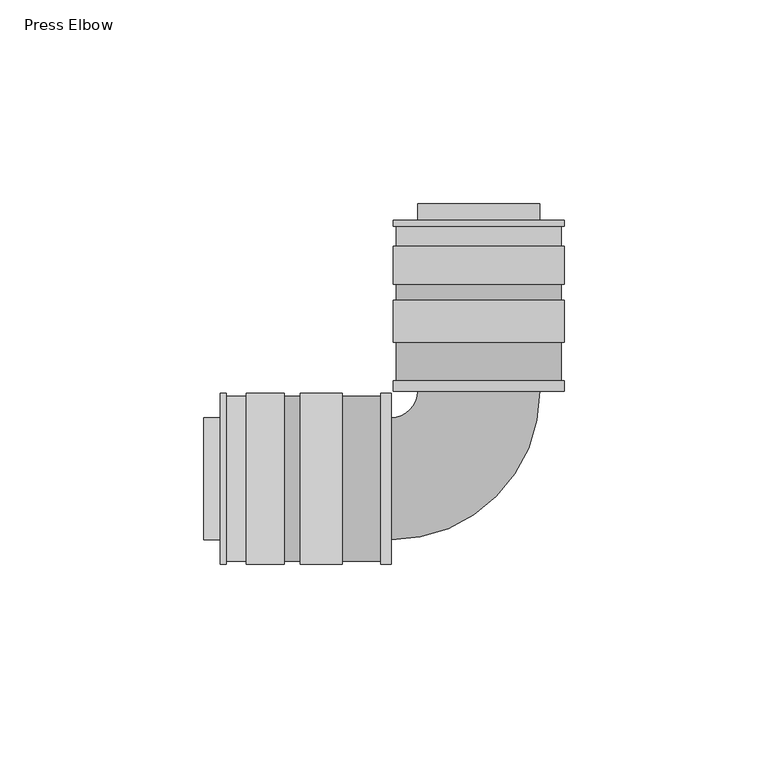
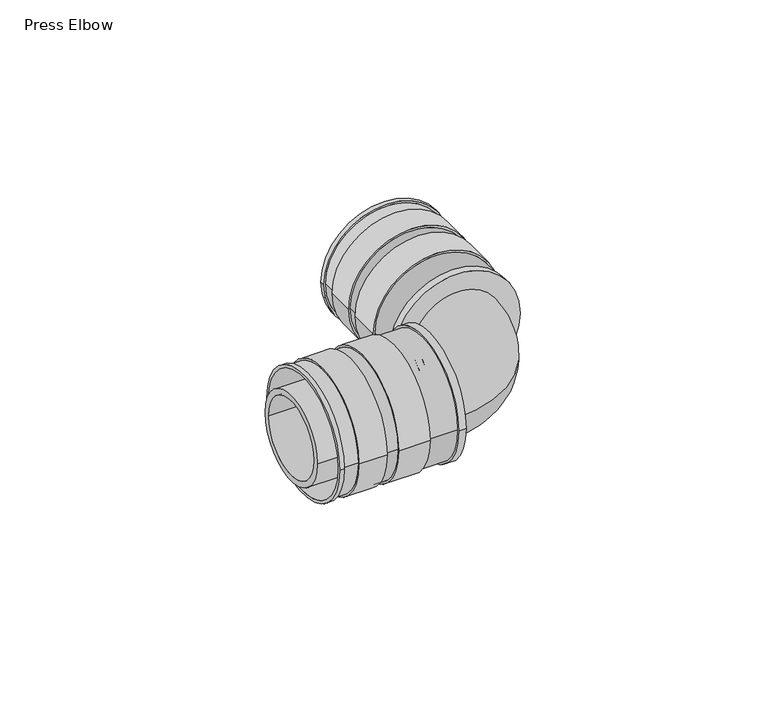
"""IFC4 building model written with IfcOpenShell, lengths in millimetres: pipe fitting geometry, Press Elbow : Superpipe Press Elbow."""

import ifcopenshell
import ifcopenshell.guid

model = None  # the IFC model being written
_history = None  # IfcOwnerHistory: only IFC2X3 demands one
_inside = {}  # id of a spatial element -> (the spatial element, [elements in it])
_under = {}  # id of a project, library or spatial element -> (it, [spatial elements below it])
_declared = {}  # id of a project -> (the project, [libraries it declares])
_typed = {}  # id of a type object -> (the type object, [elements of that type])
_made_of = {}  # id of a material, layer set ... -> (it, [elements and type objects made of it])


def new_model(schema):
    """Start an empty IFC model of exactly this schema.

    Asked for "IFC4X3", IfcOpenShell would pick the latest addendum, in which some entities
    have other attributes; the version numbers below select the first issue.
    IFC2X3 requires an IfcOwnerHistory on every rooted entity: one is made here for all.
    """
    global model, _history
    if schema == "IFC4X3":
        model = ifcopenshell.file(schema_version=(4, 3, 0, 0))
    else:
        model = ifcopenshell.file(schema=schema)
    _inside.clear()
    _under.clear()
    _declared.clear()
    _typed.clear()
    _made_of.clear()
    _history = None
    if model.schema == "IFC2X3":
        org = make("IfcOrganization", Name="unknown")
        user = make(
            "IfcPersonAndOrganization",
            ThePerson=make("IfcPerson", FamilyName="unknown"),
            TheOrganization=org,
        )
        app = make(
            "IfcApplication",
            ApplicationDeveloper=org,
            Version="unknown",
            ApplicationFullName="unknown",
            ApplicationIdentifier="unknown",
        )
        _history = make(
            "IfcOwnerHistory",
            OwningUser=user,
            OwningApplication=app,
            ChangeAction="ADDED",
            CreationDate=0,
        )
    return model


def make(cls, **values):
    """One entity of the class cls with the attributes given. An attribute that is None is left unset."""
    return model.create_entity(
        cls, **{name: value for name, value in values.items() if value is not None}
    )


def rooted(cls, **values):
    """An entity with a GlobalId (a new one), such as an element, a storey or a relation."""
    return make(cls, GlobalId=ifcopenshell.guid.new(), OwnerHistory=_history, **values)


def si_unit(unit_type, name, prefix=None):
    """IfcSIUnit, for example si_unit("LENGTHUNIT", "METRE", prefix="MILLI")."""
    return make("IfcSIUnit", UnitType=unit_type, Prefix=prefix, Name=name)


def assignment(units):
    """IfcUnitAssignment: the units of a project."""
    return None if units is None else make("IfcUnitAssignment", Units=units)


def point(xyz):
    """IfcCartesianPoint."""
    return None if xyz is None else make("IfcCartesianPoint", Coordinates=xyz)


def direction(xyz):
    """IfcDirection."""
    return None if xyz is None else make("IfcDirection", DirectionRatios=xyz)


def frame(location, z_axis=None, x_axis=None):
    """IfcAxis2Placement3D, a coordinate frame: its origin and axes. An axis left out is left unset."""
    return make(
        "IfcAxis2Placement3D",
        Location=point(location),
        Axis=direction(z_axis),
        RefDirection=direction(x_axis),
    )


def frame_2d(location, x_axis=None):
    """IfcAxis2Placement2D, a coordinate frame in the plane: its origin and x axis."""
    return make(
        "IfcAxis2Placement2D", Location=point(location), RefDirection=direction(x_axis)
    )


def origin():
    """The frame at (0, 0, 0) with its axes left unset."""
    return frame((0.0, 0.0, 0.0))


def origin_2d():
    """The frame at (0, 0) in the plane with its x axis left unset."""
    return frame_2d((0.0, 0.0))


def place(relative_to, where):
    """IfcLocalPlacement: puts the frame where relative to a parent placement (None: the world)."""
    return make(
        "IfcLocalPlacement", PlacementRelTo=relative_to, RelativePlacement=where
    )


def context(
    kind, dimensions, precision=None, world=None, true_north=None, identifier=None
):
    """IfcGeometricRepresentationContext, for example the 3D "Model" context."""
    return make(
        "IfcGeometricRepresentationContext",
        ContextIdentifier=identifier,
        ContextType=kind,
        CoordinateSpaceDimension=dimensions,
        Precision=precision,
        WorldCoordinateSystem=world,
        TrueNorth=true_north,
    )


def project(units=None, contexts=None):
    """IfcProject with its units and contexts."""
    return rooted(
        "IfcProject",
        Name="project",
        RepresentationContexts=contexts,
        UnitsInContext=assignment(units),
    )


def spatial(cls, under=None, at=None, **own):
    """A site, building, storey or space (cls), placed at a placement, below another one or the project."""
    s = rooted(cls, ObjectPlacement=at, **own)
    if under is not None:
        _under.setdefault(under.id(), (under, []))[1].append(s)
    return s


def polyline(points):
    """IfcPolyline through the points."""
    return make("IfcPolyline", Points=[point(p) for p in points])


def circle_curve(where, radius):
    """IfcCircle in the frame where."""
    return make("IfcCircle", Position=where, Radius=radius)


def ellipse_curve(where, semi_axis1, semi_axis2):
    """IfcEllipse in the frame where."""
    return make(
        "IfcEllipse", Position=where, SemiAxis1=semi_axis1, SemiAxis2=semi_axis2
    )


def trimmed(basis, trim1, trim2, sense, master):
    """IfcTrimmedCurve: the piece of a basis curve between two trims."""
    return make(
        "IfcTrimmedCurve",
        BasisCurve=basis,
        Trim1=trim1,
        Trim2=trim2,
        SenseAgreement=sense,
        MasterRepresentation=master,
    )


def segment(curve, same_sense, transition):
    """IfcCompositeCurveSegment."""
    return make(
        "IfcCompositeCurveSegment",
        Transition=transition,
        SameSense=same_sense,
        ParentCurve=curve,
    )


def composite_curve(segments, self_intersect=None):
    """IfcCompositeCurve: segments joined end to end."""
    return make("IfcCompositeCurve", Segments=segments, SelfIntersect=self_intersect)


def outline(outer, holes=None, kind="AREA"):
    """IfcArbitraryClosedProfileDef: a profile drawn as a closed curve; with holes, ...WithVoids."""
    if holes is None:
        return make("IfcArbitraryClosedProfileDef", ProfileType=kind, OuterCurve=outer)
    return make(
        "IfcArbitraryProfileDefWithVoids",
        ProfileType=kind,
        OuterCurve=outer,
        InnerCurves=holes,
    )


def extrude(swept, where, along, depth):
    """IfcExtrudedAreaSolid: the profile swept, set in the frame where, extruded along a direction by depth."""
    return make(
        "IfcExtrudedAreaSolid",
        SweptArea=swept,
        Position=where,
        ExtrudedDirection=direction(along),
        Depth=depth,
    )


def shape(context_of_items, identifier, shape_type, items):
    """IfcShapeRepresentation: the items that make up one representation, for example the "Body"."""
    return make(
        "IfcShapeRepresentation",
        ContextOfItems=context_of_items,
        RepresentationIdentifier=identifier,
        RepresentationType=shape_type,
        Items=items,
    )


def source(mapping_origin, context_of_items, identifier, shape_type, items):
    """IfcRepresentationMap: a shape defined once, which mapped items show again and again."""
    return make(
        "IfcRepresentationMap",
        MappingOrigin=mapping_origin,
        MappedRepresentation=shape(context_of_items, identifier, shape_type, items),
    )


def transform(
    local_origin,
    x_axis=None,
    y_axis=None,
    z_axis=None,
    scale=None,
    scale2=None,
    scale3=None,
    uniform=True,
):
    """IfcCartesianTransformationOperator3D, or its non-uniform kind. x_axis, y_axis, z_axis: its Axis1, 2, 3."""
    if uniform:
        return make(
            "IfcCartesianTransformationOperator3D",
            Axis1=direction(x_axis),
            Axis2=direction(y_axis),
            LocalOrigin=point(local_origin),
            Scale=scale,
            Axis3=direction(z_axis),
        )
    return make(
        "IfcCartesianTransformationOperator3DnonUniform",
        Axis1=direction(x_axis),
        Axis2=direction(y_axis),
        LocalOrigin=point(local_origin),
        Scale=scale,
        Axis3=direction(z_axis),
        Scale2=scale2,
        Scale3=scale3,
    )


def mapped(mapping_source, mapping_target):
    """IfcMappedItem: shows the shape of a source again, moved by a transform."""
    return make(
        "IfcMappedItem", MappingSource=mapping_source, MappingTarget=mapping_target
    )


def made_of(thing, what):
    """Note that an element or type object is made of a material, layer set ...; save() writes the relation."""
    if what is not None:
        _made_of.setdefault(what.id(), (what, []))[1].append(thing)
    return thing


def element(
    cls,
    number,
    at=None,
    inside=None,
    cuts=None,
    type_object=None,
    material=None,
    context=None,
    identifier="Body",
    shape_type=None,
    held_by="IfcProductDefinitionShape",
    body=None,
    shapes=None,
    **own,
):
    """One element of the class cls, such as IfcWall. Its Tag is "e" and its number.

    at: its placement. inside: the storey or other place that contains it. cuts: it is an
    opening in that element (IfcRelVoidsElement). A single representation is given by context,
    identifier, shape_type and body (its items); several are given by shapes. held_by: the class
    of the entity that holds the representations. save() writes the other relations.
    """
    e = rooted(cls, Tag="e%d" % number, ObjectPlacement=at, **own)
    if body is not None:
        shapes = [shape(context, identifier, shape_type, body)]
    if shapes is not None:
        e.Representation = make(held_by, Representations=shapes)
    if inside is not None:
        _inside.setdefault(inside.id(), (inside, []))[1].append(e)
    if cuts is not None:
        rooted(
            "IfcRelVoidsElement", RelatingBuildingElement=cuts, RelatedOpeningElement=e
        )
    if type_object is not None:
        _typed.setdefault(type_object.id(), (type_object, []))[1].append(e)
    return made_of(e, material)


def aggregate(whole, parts):
    """IfcRelAggregates: a whole, such as a stair, and the parts it consists of."""
    return rooted("IfcRelAggregates", RelatingObject=whole, RelatedObjects=parts)


def save(model, path):
    """Write the relations noted so far, then the file.

    IfcRelAggregates (storeys below a building ...), IfcRelContainedInSpatialStructure (elements
    in a storey), IfcRelDefinesByType, IfcRelAssociatesMaterial and IfcRelDeclares: one each for
    every whole, place, type object, material and project.
    """
    for whole, parts in _under.values():
        aggregate(whole, parts)
    for where, things in _inside.values():
        rooted(
            "IfcRelContainedInSpatialStructure",
            RelatedElements=things,
            RelatingStructure=where,
        )
    for kind, things in _typed.values():
        rooted("IfcRelDefinesByType", RelatedObjects=things, RelatingType=kind)
    for what, things in _made_of.values():
        rooted("IfcRelAssociatesMaterial", RelatedObjects=things, RelatingMaterial=what)
    for by, libraries in _declared.values():
        rooted("IfcRelDeclares", RelatingContext=by, RelatedDefinitions=libraries)
    model.write(path)


def plane_surface(at):
    """IfcPlane: the flat surface through the origin of the frame at, square to its z axis."""
    return make("IfcPlane", Position=at)


def cylinder_surface(at, radius):
    """IfcCylindricalSurface: all points at the distance radius from the z axis of the frame at."""
    return make("IfcCylindricalSurface", Position=at, Radius=radius)


def revolved_surface(curve, axis_point, axis_direction):
    """IfcSurfaceOfRevolution: the curve turned about the line through axis_point along axis_direction."""
    return make(
        "IfcSurfaceOfRevolution",
        SweptCurve=make("IfcArbitraryOpenProfileDef", ProfileType="CURVE", Curve=curve),
        AxisPosition=make("IfcAxis1Placement", Location=point(axis_point), Axis=direction(axis_direction)),
    )


def advanced_brep(points, edges, surfaces, faces):
    """IfcAdvancedBrep: a solid bounded by faces that lie on surfaces and meet in shared edges.

    An edge is (start, end): straight between two places in points (the first is 0);
    or (start, end, curve); or (start, end, curve, False) where it runs against its curve.
    A face is (place in surfaces, loops), or (place, loops, False) where it looks against
    its surface's normal. A loop lists edges by number (the first is 1), with a minus sign
    where the edge is run from its end to its start. The first loop is the outer one.
    """
    corners = [point(p) for p in points]
    vertices = [make("IfcVertexPoint", VertexGeometry=c) for c in corners]
    made = []
    for start, end, *more in edges:
        made.append(
            make(
                "IfcEdgeCurve",
                EdgeStart=vertices[start],
                EdgeEnd=vertices[end],
                EdgeGeometry=more[0] if more else make("IfcPolyline", Points=[corners[start], corners[end]]),
                SameSense=more[1] if len(more) > 1 else True,
            )
        )
    hull = []
    for where, loops, *sense in faces:
        bounds = []
        for j, loop in enumerate(loops):
            ring = [make("IfcOrientedEdge", EdgeElement=made[abs(k) - 1], Orientation=k > 0) for k in loop]
            bounds.append(
                make(
                    "IfcFaceOuterBound" if j == 0 else "IfcFaceBound",
                    Bound=make("IfcEdgeLoop", EdgeList=ring),
                    Orientation=True,
                )
            )
        hull.append(make("IfcAdvancedFace", Bounds=bounds, FaceSurface=surfaces[where], SameSense=sense[0] if sense else True))
    return make("IfcAdvancedBrep", Outer=make("IfcClosedShell", CfsFaces=hull))


def press_elbow_edc2ccf9(model_context):
    return source(origin(), model_context, "Body", "SolidModel", [
        advanced_brep(
        [(-20.3, 24.0, 0.0), (20.3, 24.0, 0.0), (20.0, 24.0, 0.0), (-20.0, 24.0, 0.0), (21.0, 63.5, 0.0), (-21.0, 63.5, 0.0), (20.0, 63.5, 0.0), (-20.0, 63.5, 0.0), (21.0, 62.0, 0.0), (-21.0, 62.0, 0.0), (21.0, 33.5, 0.0), (-21.0, 33.5, 0.0), (-21.0, 43.75, 0.0), (21.0, 43.75, 0.0), (21.0, 47.75, 0.0), (-21.0, 47.75, 0.0), (-21.0, 57.0, 0.0), (21.0, 57.0, 0.0), (20.3, 33.5, 0.0), (-20.3, 33.5, 0.0), (20.3, 43.75, 0.0), (-20.3, 43.75, 0.0), (20.3, 47.75, 0.0), (-20.3, 47.75, 0.0), (-20.3, 62.0, 0.0), (20.3, 62.0, 0.0), (-20.3, 57.0, 0.0), (20.3, 57.0, 0.0)],
        [
            (0, 1, circle_curve(frame((0.0, 24.0, 0.0), z_axis=(0.0, -1.0, 0.0), x_axis=(-1.0, 0.0, 0.0)), 20.3)),
            (1, 0, circle_curve(frame((0.0, 24.0, 0.0), z_axis=(0.0, -1.0, 0.0), x_axis=(-1.0, 0.0, 0.0)), 20.3)),
            (2, 3, circle_curve(frame((0.0, 24.0, 0.0), z_axis=(0.0, 1.0, 0.0), x_axis=(-1.0, 0.0, 0.0)), 20.0)),
            (3, 2, circle_curve(frame((0.0, 24.0, 0.0), z_axis=(0.0, 1.0, 0.0), x_axis=(-1.0, 0.0, 0.0)), 20.0)),
            (4, 5, circle_curve(frame((0.0, 63.5, 0.0), z_axis=(0.0, 1.0, 0.0), x_axis=(-1.0, 0.0, 0.0)), 21.0)),
            (5, 4, circle_curve(frame((0.0, 63.5, 0.0), z_axis=(0.0, 1.0, 0.0), x_axis=(-1.0, 0.0, 0.0)), 21.0)),
            (6, 7, circle_curve(frame((0.0, 63.5, 0.0), z_axis=(0.0, -1.0, 0.0), x_axis=(-1.0, 0.0, 0.0)), 20.0)),
            (7, 6, circle_curve(frame((0.0, 63.5, 0.0), z_axis=(0.0, -1.0, 0.0), x_axis=(-1.0, 0.0, 0.0)), 20.0)),
            (4, 8),
            (8, 9, circle_curve(frame((0.0, 62.0, 0.0), z_axis=(0.0, 1.0, 0.0), x_axis=(-1.0, 0.0, 0.0)), 21.0)),
            (9, 5),
            (10, 11, circle_curve(frame((0.0, 33.5, 0.0), z_axis=(0.0, 1.0, 0.0), x_axis=(-1.0, 0.0, 0.0)), 21.0)),
            (11, 12),
            (12, 13, circle_curve(frame((0.0, 43.75, 0.0), z_axis=(0.0, -1.0, 0.0), x_axis=(-1.0, 0.0, 0.0)), 21.0)),
            (13, 10),
            (14, 15, circle_curve(frame((0.0, 47.75, 0.0), z_axis=(0.0, 1.0, 0.0), x_axis=(-1.0, 0.0, 0.0)), 21.0)),
            (15, 16),
            (16, 17, circle_curve(frame((0.0, 57.0, 0.0), z_axis=(0.0, -1.0, 0.0), x_axis=(-1.0, 0.0, 0.0)), 21.0)),
            (17, 14),
            (9, 8, circle_curve(frame((0.0, 62.0, 0.0), z_axis=(0.0, 1.0, 0.0), x_axis=(-1.0, 0.0, 0.0)), 21.0)),
            (11, 10, circle_curve(frame((0.0, 33.5, 0.0), z_axis=(0.0, 1.0, 0.0), x_axis=(-1.0, 0.0, 0.0)), 21.0)),
            (13, 12, circle_curve(frame((0.0, 43.75, 0.0), z_axis=(0.0, -1.0, 0.0), x_axis=(-1.0, 0.0, 0.0)), 21.0)),
            (15, 14, circle_curve(frame((0.0, 47.75, 0.0), z_axis=(0.0, 1.0, 0.0), x_axis=(-1.0, 0.0, 0.0)), 21.0)),
            (17, 16, circle_curve(frame((0.0, 57.0, 0.0), z_axis=(0.0, -1.0, 0.0), x_axis=(-1.0, 0.0, 0.0)), 21.0)),
            (3, 7),
            (6, 2),
            (18, 19, circle_curve(frame((0.0, 33.5, 0.0), z_axis=(0.0, 1.0, 0.0), x_axis=(-1.0, 0.0, 0.0)), 20.3)),
            (19, 18, circle_curve(frame((0.0, 33.5, 0.0), z_axis=(0.0, 1.0, 0.0), x_axis=(-1.0, 0.0, 0.0)), 20.3)),
            (18, 1),
            (0, 19),
            (20, 21, circle_curve(frame((0.0, 43.75, 0.0), z_axis=(0.0, -1.0, 0.0), x_axis=(-1.0, 0.0, 0.0)), 20.3)),
            (21, 20, circle_curve(frame((0.0, 43.75, 0.0), z_axis=(0.0, -1.0, 0.0), x_axis=(-1.0, 0.0, 0.0)), 20.3)),
            (22, 23, circle_curve(frame((0.0, 47.75, 0.0), z_axis=(0.0, 1.0, 0.0), x_axis=(-1.0, 0.0, 0.0)), 20.3)),
            (23, 22, circle_curve(frame((0.0, 47.75, 0.0), z_axis=(0.0, 1.0, 0.0), x_axis=(-1.0, 0.0, 0.0)), 20.3)),
            (21, 23),
            (22, 20),
            (24, 25, circle_curve(frame((0.0, 62.0, 0.0), z_axis=(0.0, 1.0, 0.0), x_axis=(1.0, 0.0, 0.0)), 20.3)),
            (25, 24, circle_curve(frame((0.0, 62.0, 0.0), z_axis=(0.0, 1.0, 0.0), x_axis=(1.0, 0.0, 0.0)), 20.3)),
            (26, 27, circle_curve(frame((0.0, 57.0, 0.0), z_axis=(0.0, -1.0, 0.0), x_axis=(1.0, 0.0, 0.0)), 20.3)),
            (27, 26, circle_curve(frame((0.0, 57.0, 0.0), z_axis=(0.0, -1.0, 0.0), x_axis=(1.0, 0.0, 0.0)), 20.3)),
            (25, 27),
            (26, 24),
        ],
        [
            plane_surface(frame((0.0, 24.0, 0.0), z_axis=(0.0, -1.0, 0.0), x_axis=(0.0, 0.0, 1.0))),
            plane_surface(frame((0.0, 63.5, 0.0), z_axis=(0.0, 1.0, 0.0), x_axis=(0.0, 0.0, 1.0))),
            cylinder_surface(frame((0.0, 24.0, 0.0), z_axis=(0.0, -1.0, 0.0), x_axis=(-1.0, 0.0, 0.0)), 21.0),
            revolved_surface(polyline([(-20.0, 63.5, 0.0), (-20.0, 24.0, 0.0)]), (0.0, 24.0, 0.0), (0.0, 1.0, 0.0)),
            plane_surface(frame((0.0, 33.5, 0.0), z_axis=(0.0, -1.0, 0.0), x_axis=(0.0, 0.0, 1.0))),
            cylinder_surface(frame((0.0, 24.0, 0.0), z_axis=(0.0, 1.0, 0.0), x_axis=(-1.0, 0.0, 0.0)), 20.3),
            plane_surface(frame((0.0, 43.75, 0.0), z_axis=(0.0, 1.0, 0.0), x_axis=(0.0, 0.0, 1.0))),
            plane_surface(frame((0.0, 47.75, 0.0), z_axis=(0.0, -1.0, 0.0), x_axis=(0.0, 0.0, 1.0))),
            cylinder_surface(frame((0.0, 43.75, 0.0), z_axis=(0.0, 1.0, 0.0), x_axis=(-1.0, 0.0, 0.0)), 20.3),
            plane_surface(frame((0.0, 62.0, 0.0), z_axis=(0.0, -1.0, 0.0), x_axis=(0.0, 0.0, 1.0))),
            plane_surface(frame((0.0, 57.0, 0.0), z_axis=(0.0, 1.0, 0.0), x_axis=(0.0, 0.0, 1.0))),
            cylinder_surface(frame((0.0, 62.0, 0.0), z_axis=(0.0, -1.0, 0.0), x_axis=(1.0, 0.0, 0.0)), 20.3),
        ],
        [
            (0, [[1, 2], [3, 4]]),
            (1, [[5, 6], [7, 8]]),
            (2, [[-5, 9, 10, 11]]),
            (2, [[12, 13, 14, 15]]),
            (2, [[16, 17, 18, 19]]),
            (2, [[-6, -11, 20, -9]]),
            (2, [[21, -15, 22, -13]]),
            (2, [[23, -19, 24, -17]]),
            (3, [[-4, 25, -7, 26]]),
            (3, [[-3, -26, -8, -25]]),
            (4, [[-12, -21], [27, 28]]),
            (5, [[-27, 29, -1, 30]]),
            (5, [[-28, -30, -2, -29]]),
            (6, [[-14, -22], [31, 32]]),
            (7, [[-16, -23], [33, 34]]),
            (8, [[-32, 35, -33, 36]]),
            (8, [[-31, -36, -34, -35]]),
            (9, [[-10, -20], [37, 38]]),
            (10, [[-18, -24], [39, 40]]),
            (11, [[-38, 41, -39, 42]]),
            (11, [[-37, -42, -40, -41]]),
        ],
    ),
        advanced_brep(
        [(-24.0, -20.3, 0.0), (-24.0, 20.3, 0.0), (-24.0, 20.0, 0.0), (-24.0, -20.0, 0.0), (-63.5, 21.0, 0.0), (-63.5, -21.0, 0.0), (-63.5, 20.0, 0.0), (-63.5, -20.0, 0.0), (-62.0, 21.0, 0.0), (-62.0, -21.0, 0.0), (-43.75, -21.0, 0.0), (-43.75, 21.0, 0.0), (-33.5, 21.0, 0.0), (-33.5, -21.0, 0.0), (-47.75, 21.0, 0.0), (-47.75, -21.0, 0.0), (-57.0, -21.0, 0.0), (-57.0, 21.0, 0.0), (-43.75, 20.3, 0.0), (-43.75, -20.3, 0.0), (-47.75, 20.3, 0.0), (-47.75, -20.3, 0.0), (-62.0, -20.3, 0.0), (-62.0, 20.3, 0.0), (-57.0, -20.3, 0.0), (-57.0, 20.3, 0.0), (-33.5, 20.3, 0.0), (-33.5, -20.3, 0.0)],
        [
            (0, 1, circle_curve(frame((-24.0, 0.0, 0.0), z_axis=(1.0, 0.0, 0.0), x_axis=(0.0, -1.0, 0.0)), 20.3)),
            (1, 0, circle_curve(frame((-24.0, 0.0, 0.0), z_axis=(1.0, 0.0, 0.0), x_axis=(0.0, -1.0, 0.0)), 20.3)),
            (2, 3, circle_curve(frame((-24.0, 0.0, 0.0), z_axis=(-1.0, 0.0, 0.0), x_axis=(0.0, -1.0, 0.0)), 20.0)),
            (3, 2, circle_curve(frame((-24.0, 0.0, 0.0), z_axis=(-1.0, 0.0, 0.0), x_axis=(0.0, -1.0, 0.0)), 20.0)),
            (4, 5, circle_curve(frame((-63.5, 0.0, 0.0), z_axis=(-1.0, 0.0, 0.0), x_axis=(0.0, -1.0, 0.0)), 21.0)),
            (5, 4, circle_curve(frame((-63.5, 0.0, 0.0), z_axis=(-1.0, 0.0, 0.0), x_axis=(0.0, -1.0, 0.0)), 21.0)),
            (6, 7, circle_curve(frame((-63.5, 0.0, 0.0), z_axis=(1.0, 0.0, 0.0), x_axis=(0.0, -1.0, 0.0)), 20.0)),
            (7, 6, circle_curve(frame((-63.5, 0.0, 0.0), z_axis=(1.0, 0.0, 0.0), x_axis=(0.0, -1.0, 0.0)), 20.0)),
            (3, 7),
            (6, 2),
            (4, 8),
            (8, 9, circle_curve(frame((-62.0, 0.0, 0.0), z_axis=(-1.0, 0.0, 0.0), x_axis=(0.0, -1.0, 0.0)), 21.0)),
            (9, 5),
            (10, 11, circle_curve(frame((-43.75, 0.0, 0.0), z_axis=(1.0, 0.0, 0.0), x_axis=(0.0, -1.0, 0.0)), 21.0)),
            (11, 12),
            (12, 13, circle_curve(frame((-33.5, 0.0, 0.0), z_axis=(-1.0, 0.0, 0.0), x_axis=(0.0, -1.0, 0.0)), 21.0)),
            (13, 10),
            (14, 15, circle_curve(frame((-47.75, 0.0, 0.0), z_axis=(-1.0, 0.0, 0.0), x_axis=(0.0, -1.0, 0.0)), 21.0)),
            (15, 16),
            (16, 17, circle_curve(frame((-57.0, 0.0, 0.0), z_axis=(1.0, 0.0, 0.0), x_axis=(0.0, -1.0, 0.0)), 21.0)),
            (17, 14),
            (9, 8, circle_curve(frame((-62.0, 0.0, 0.0), z_axis=(-1.0, 0.0, 0.0), x_axis=(0.0, -1.0, 0.0)), 21.0)),
            (11, 10, circle_curve(frame((-43.75, 0.0, 0.0), z_axis=(1.0, 0.0, 0.0), x_axis=(0.0, -1.0, 0.0)), 21.0)),
            (13, 12, circle_curve(frame((-33.5, 0.0, 0.0), z_axis=(-1.0, 0.0, 0.0), x_axis=(0.0, -1.0, 0.0)), 21.0)),
            (15, 14, circle_curve(frame((-47.75, 0.0, 0.0), z_axis=(-1.0, 0.0, 0.0), x_axis=(0.0, -1.0, 0.0)), 21.0)),
            (17, 16, circle_curve(frame((-57.0, 0.0, 0.0), z_axis=(1.0, 0.0, 0.0), x_axis=(0.0, -1.0, 0.0)), 21.0)),
            (18, 19, circle_curve(frame((-43.75, 0.0, 0.0), z_axis=(1.0, 0.0, 0.0), x_axis=(0.0, -1.0, 0.0)), 20.3)),
            (19, 18, circle_curve(frame((-43.75, 0.0, 0.0), z_axis=(1.0, 0.0, 0.0), x_axis=(0.0, -1.0, 0.0)), 20.3)),
            (20, 21, circle_curve(frame((-47.75, 0.0, 0.0), z_axis=(-1.0, 0.0, 0.0), x_axis=(0.0, -1.0, 0.0)), 20.3)),
            (21, 20, circle_curve(frame((-47.75, 0.0, 0.0), z_axis=(-1.0, 0.0, 0.0), x_axis=(0.0, -1.0, 0.0)), 20.3)),
            (19, 21),
            (20, 18),
            (22, 23, circle_curve(frame((-62.0, 0.0, 0.0), z_axis=(-1.0, 0.0, 0.0), x_axis=(0.0, 1.0, 0.0)), 20.3)),
            (23, 22, circle_curve(frame((-62.0, 0.0, 0.0), z_axis=(-1.0, 0.0, 0.0), x_axis=(0.0, 1.0, 0.0)), 20.3)),
            (24, 25, circle_curve(frame((-57.0, 0.0, 0.0), z_axis=(1.0, 0.0, 0.0), x_axis=(0.0, 1.0, 0.0)), 20.3)),
            (25, 24, circle_curve(frame((-57.0, 0.0, 0.0), z_axis=(1.0, 0.0, 0.0), x_axis=(0.0, 1.0, 0.0)), 20.3)),
            (23, 25),
            (24, 22),
            (26, 27, circle_curve(frame((-33.5, 0.0, 0.0), z_axis=(-1.0, 0.0, 0.0), x_axis=(0.0, -1.0, 0.0)), 20.3)),
            (27, 26, circle_curve(frame((-33.5, 0.0, 0.0), z_axis=(-1.0, 0.0, 0.0), x_axis=(0.0, -1.0, 0.0)), 20.3)),
            (26, 1),
            (0, 27),
        ],
        [
            plane_surface(frame((-24.0, 0.0, 0.0), z_axis=(1.0, 0.0, 0.0), x_axis=(0.0, 0.0, 1.0))),
            plane_surface(frame((-63.5, 0.0, 0.0), z_axis=(-1.0, 0.0, 0.0), x_axis=(0.0, 0.0, 1.0))),
            revolved_surface(polyline([(-63.5, -20.0, 0.0), (-24.0, -20.0, 0.0)]), (-24.0, 0.0, 0.0), (-1.0, 0.0, 0.0)),
            cylinder_surface(frame((-24.0, 0.0, 0.0), z_axis=(1.0, 0.0, 0.0), x_axis=(0.0, -1.0, 0.0)), 21.0),
            plane_surface(frame((-43.75, 0.0, 0.0), z_axis=(-1.0, 0.0, 0.0), x_axis=(0.0, 0.0, 1.0))),
            plane_surface(frame((-47.75, 0.0, 0.0), z_axis=(1.0, 0.0, 0.0), x_axis=(0.0, 0.0, 1.0))),
            cylinder_surface(frame((-43.75, 0.0, 0.0), z_axis=(-1.0, 0.0, 0.0), x_axis=(0.0, -1.0, 0.0)), 20.3),
            plane_surface(frame((-62.0, 0.0, 0.0), z_axis=(1.0, 0.0, 0.0), x_axis=(0.0, 0.0, 1.0))),
            plane_surface(frame((-57.0, 0.0, 0.0), z_axis=(-1.0, 0.0, 0.0), x_axis=(0.0, 0.0, 1.0))),
            cylinder_surface(frame((-62.0, 0.0, 0.0), z_axis=(1.0, 0.0, 0.0), x_axis=(0.0, 1.0, 0.0)), 20.3),
            plane_surface(frame((-33.5, 0.0, 0.0), z_axis=(1.0, 0.0, 0.0), x_axis=(0.0, 0.0, 1.0))),
            cylinder_surface(frame((-24.0, 0.0, 0.0), z_axis=(-1.0, 0.0, 0.0), x_axis=(0.0, -1.0, 0.0)), 20.3),
        ],
        [
            (0, [[1, 2], [3, 4]]),
            (1, [[5, 6], [7, 8]]),
            (2, [[-4, 9, -7, 10]]),
            (2, [[-3, -10, -8, -9]]),
            (3, [[-5, 11, 12, 13]]),
            (3, [[14, 15, 16, 17]]),
            (3, [[18, 19, 20, 21]]),
            (3, [[-6, -13, 22, -11]]),
            (3, [[23, -17, 24, -15]]),
            (3, [[25, -21, 26, -19]]),
            (4, [[-14, -23], [27, 28]]),
            (5, [[-18, -25], [29, 30]]),
            (6, [[-28, 31, -29, 32]]),
            (6, [[-27, -32, -30, -31]]),
            (7, [[-12, -22], [33, 34]]),
            (8, [[-20, -26], [35, 36]]),
            (9, [[-34, 37, -35, 38]]),
            (9, [[-33, -38, -36, -37]]),
            (10, [[-16, -24], [39, 40]]),
            (11, [[-39, 41, -1, 42]]),
            (11, [[-40, -42, -2, -41]]),
        ],
    ),
        extrude(outline(composite_curve([segment(trimmed(circle_curve(origin_2d(), 15.0), [point((0.0, 15.0))], [point((0.0, -15.0))], False, "CARTESIAN"), True, "CONTINUOUS"), segment(trimmed(circle_curve(origin_2d(), 15.0), [point((0.0, -15.0))], [point((0.0, 15.0))], False, "CARTESIAN"), True, "CONTINUOUS")], self_intersect=False), holes=[composite_curve([segment(trimmed(circle_curve(origin_2d(), 13.0), [point((0.0, 13.0))], [point((0.0, -13.0))], True, "CARTESIAN"), True, "CONTINUOUS"), segment(trimmed(circle_curve(origin_2d(), 13.0), [point((0.0, -13.0))], [point((0.0, 13.0))], True, "CARTESIAN"), True, "CONTINUOUS")], self_intersect=False)]), frame((0.0, 24.0, 0.0), z_axis=(0.0, 1.0, 0.0), x_axis=(0.0, 0.0, 1.0)), (0.0, 0.0, 1.0), 43.5),
        extrude(outline(composite_curve([segment(trimmed(circle_curve(origin_2d(), 21.0), [point((0.0, 21.0))], [point((0.0, -21.0))], False, "CARTESIAN"), True, "CONTINUOUS"), segment(trimmed(circle_curve(origin_2d(), 21.0), [point((0.0, -21.0))], [point((0.0, 21.0))], False, "CARTESIAN"), True, "CONTINUOUS")], self_intersect=False), holes=[composite_curve([segment(trimmed(circle_curve(origin_2d(), 13.0), [point((0.0, 13.0))], [point((0.0, -13.0))], True, "CARTESIAN"), True, "CONTINUOUS"), segment(trimmed(circle_curve(origin_2d(), 13.0), [point((0.0, -13.0))], [point((0.0, 13.0))], True, "CARTESIAN"), True, "CONTINUOUS")], self_intersect=False)]), frame((0.0, 21.5, 0.0), z_axis=(0.0, 1.0, 0.0), x_axis=(0.0, 0.0, 1.0)), (0.0, 0.0, 1.0), 2.5),
        extrude(outline(composite_curve([segment(trimmed(circle_curve(origin_2d(), 21.0), [point((21.0, 0.0))], [point((-21.0, 0.0))], False, "CARTESIAN"), True, "CONTINUOUS"), segment(trimmed(circle_curve(origin_2d(), 21.0), [point((-21.0, 0.0))], [point((21.0, 0.0))], False, "CARTESIAN"), True, "CONTINUOUS")], self_intersect=False), holes=[composite_curve([segment(trimmed(circle_curve(origin_2d(), 13.0), [point((13.0, 0.0))], [point((-13.0, 0.0))], True, "CARTESIAN"), True, "CONTINUOUS"), segment(trimmed(circle_curve(origin_2d(), 13.0), [point((-13.0, 0.0))], [point((13.0, 0.0))], True, "CARTESIAN"), True, "CONTINUOUS")], self_intersect=False)]), frame((-24.0, 0.0, 0.0), z_axis=(1.0, 0.0, 0.0), x_axis=(0.0, 1.0, 0.0)), (0.0, 0.0, 1.0), 2.5),
        extrude(outline(composite_curve([segment(trimmed(circle_curve(origin_2d(), 15.0), [point((15.0, 0.0))], [point((-15.0, 0.0))], False, "CARTESIAN"), True, "CONTINUOUS"), segment(trimmed(circle_curve(origin_2d(), 15.0), [point((-15.0, 0.0))], [point((15.0, 0.0))], False, "CARTESIAN"), True, "CONTINUOUS")], self_intersect=False), holes=[composite_curve([segment(trimmed(circle_curve(origin_2d(), 13.0), [point((13.0, 0.0))], [point((-13.0, 0.0))], True, "CARTESIAN"), True, "CONTINUOUS"), segment(trimmed(circle_curve(origin_2d(), 13.0), [point((-13.0, 0.0))], [point((13.0, 0.0))], True, "CARTESIAN"), True, "CONTINUOUS")], self_intersect=False)]), frame((-67.5, 0.0, 0.0), z_axis=(1.0, 0.0, 0.0), x_axis=(0.0, 1.0, 0.0)), (0.0, 0.0, 1.0), 43.5),
        advanced_brep(
        [(-21.5, -13.0, 0.0), (-21.5, 13.0, 0.0), (13.0, 21.5, 0.0), (-13.0, 21.5, 0.0)],
        [
            (0, 1, circle_curve(frame((-21.5, 0.0, 0.0), z_axis=(-1.0, 0.0, 0.0), x_axis=(0.0, 1.0, 0.0)), 13.0)),
            (1, 0, circle_curve(frame((-21.5, 0.0, 0.0), z_axis=(-1.0, 0.0, 0.0), x_axis=(0.0, 1.0, 0.0)), 13.0)),
            (2, 3, circle_curve(frame((0.0, 21.5, 0.0), z_axis=(0.0, 1.0, 0.0), x_axis=(-1.0, 0.0, 0.0)), 13.0)),
            (3, 2, circle_curve(frame((0.0, 21.5, 0.0), z_axis=(0.0, 1.0, 0.0), x_axis=(-1.0, 0.0, 0.0)), 13.0)),
            (3, 1, circle_curve(frame((-21.5, 21.5, 0.0), z_axis=(0.0, 0.0, -1.0), x_axis=(0.0, -1.0, 0.0)), 8.5)),
            (0, 2, circle_curve(frame((-21.5, 21.5, 0.0), z_axis=(0.0, 0.0, 1.0), x_axis=(0.0, -1.0, 0.0)), 34.5)),
        ],
        [
            plane_surface(frame((-21.5, 0.0, 0.0), z_axis=(-1.0, 0.0, 0.0), x_axis=(0.0, 0.0, 1.0))),
            plane_surface(frame((0.0, 21.5, 0.0), z_axis=(0.0, 1.0, 0.0), x_axis=(0.0, 0.0, 1.0))),
            revolved_surface(trimmed(ellipse_curve(frame((-21.5, 0.0, 0.0), z_axis=(-1.0, 0.0, 0.0), x_axis=(0.0, 1.0, 0.0)), 13.0, 13.0), [point((-21.5, -13.0, 0.0))], [point((-21.5, 13.0, 0.0))], True, "CARTESIAN"), (-21.5, 21.5, 0.0), (0.0, 0.0, 1.0)),
            revolved_surface(trimmed(ellipse_curve(frame((-21.5, 0.0, 0.0), z_axis=(-1.0, 0.0, 0.0), x_axis=(0.0, 1.0, 0.0)), 13.0, 13.0), [point((-21.5, 13.0, 0.0))], [point((-21.5, -13.0, 0.0))], True, "CARTESIAN"), (-21.5, 21.5, 0.0), (0.0, 0.0, 1.0)),
        ],
        [
            (0, [[1, 2]]),
            (1, [[3, 4]]),
            (2, [[5, -1, 6, -4]]),
            (3, [[-6, -2, -5, -3]]),
        ],
    ),
        advanced_brep(
        [(-21.5, -15.0, 0.0), (-21.5, 15.0, 0.0), (15.0, 21.5, 0.0), (-15.0, 21.5, 0.0)],
        [
            (0, 1, circle_curve(frame((-21.5, 0.0, 0.0), z_axis=(-1.0, 0.0, 0.0), x_axis=(0.0, 1.0, 0.0)), 15.0)),
            (1, 0, circle_curve(frame((-21.5, 0.0, 0.0), z_axis=(-1.0, 0.0, 0.0), x_axis=(0.0, 1.0, 0.0)), 15.0)),
            (2, 3, circle_curve(frame((0.0, 21.5, 0.0), z_axis=(0.0, 1.0, 0.0), x_axis=(-1.0, 0.0, 0.0)), 15.0)),
            (3, 2, circle_curve(frame((0.0, 21.5, 0.0), z_axis=(0.0, 1.0, 0.0), x_axis=(-1.0, 0.0, 0.0)), 15.0)),
            (3, 1, circle_curve(frame((-21.5, 21.5, 0.0), z_axis=(0.0, 0.0, -1.0), x_axis=(0.0, -1.0, 0.0)), 6.5)),
            (0, 2, circle_curve(frame((-21.5, 21.5, 0.0), z_axis=(0.0, 0.0, 1.0), x_axis=(0.0, -1.0, 0.0)), 36.5)),
        ],
        [
            plane_surface(frame((-21.5, 0.0, 0.0), z_axis=(-1.0, 0.0, 0.0), x_axis=(0.0, 0.0, 1.0))),
            plane_surface(frame((0.0, 21.5, 0.0), z_axis=(0.0, 1.0, 0.0), x_axis=(0.0, 0.0, 1.0))),
            revolved_surface(trimmed(ellipse_curve(frame((-21.5, 0.0, 0.0), z_axis=(-1.0, 0.0, 0.0), x_axis=(0.0, 1.0, 0.0)), 15.0, 15.0), [point((-21.5, -15.0, 0.0))], [point((-21.5, 15.0, 0.0))], True, "CARTESIAN"), (-21.5, 21.5, 0.0), (0.0, 0.0, 1.0)),
            revolved_surface(trimmed(ellipse_curve(frame((-21.5, 0.0, 0.0), z_axis=(-1.0, 0.0, 0.0), x_axis=(0.0, 1.0, 0.0)), 15.0, 15.0), [point((-21.5, 15.0, 0.0))], [point((-21.5, -15.0, 0.0))], True, "CARTESIAN"), (-21.5, 21.5, 0.0), (0.0, 0.0, 1.0)),
        ],
        [
            (0, [[1, 2]]),
            (1, [[3, 4]]),
            (2, [[5, -1, 6, -4]]),
            (3, [[-6, -2, -5, -3]]),
        ],
    ),
    ])


if __name__ == "__main__":
    model = new_model("IFC4")
    model_context = context("Model", 3, world=origin())
    ifc_project = project(units=[si_unit("LENGTHUNIT", "METRE", prefix="MILLI")], contexts=[model_context])
    site = spatial("IfcSite", under=ifc_project)
    building = spatial("IfcBuilding", under=site)
    placement = place(None, origin())
    press_elbow_shape = press_elbow_edc2ccf9(model_context)
    element("IfcPipeFitting", 1, ObjectType="Press Elbow : Superpipe Press Elbow", at=placement, inside=building, context=model_context, shape_type="MappedRepresentation", body=[
        mapped(press_elbow_shape, transform((0.0, 0.0, 0.0), x_axis=(1.0, 0.0, 0.0), y_axis=(0.0, 1.0, 0.0), z_axis=(0.0, 0.0, 1.0))),
    ])
    save(model, "model.ifc")
